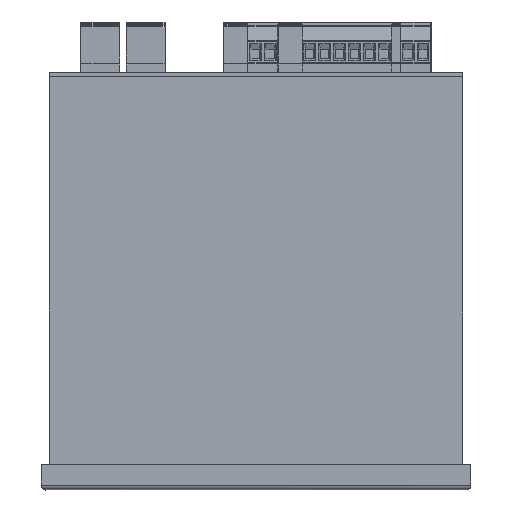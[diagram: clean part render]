
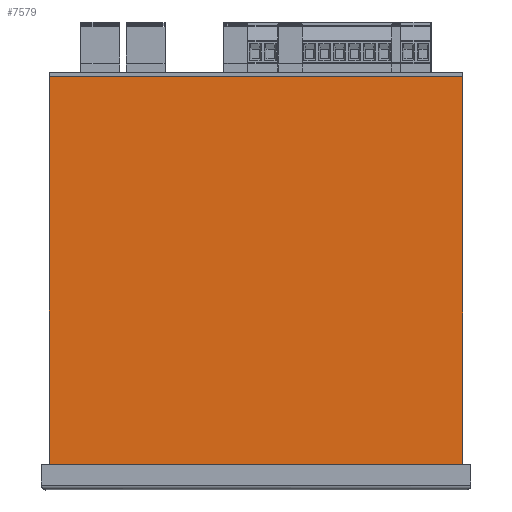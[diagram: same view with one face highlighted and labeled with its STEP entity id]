
A CAD part, top view. The second image highlights one B-rep face of the part: STEP entity #7579.
In plain terms, the highlighted planar face has unit normal (0, 0, 1).
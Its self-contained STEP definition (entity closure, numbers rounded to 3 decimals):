
#448=FACE_OUTER_BOUND($,#810,.T.);
#810=EDGE_LOOP($,(#5073,#5074,#5075,#5076));
#1242=LINE($,#10953,#2117);
#1243=LINE($,#10955,#2118);
#1244=LINE($,#10957,#2119);
#1245=LINE($,#10958,#2120);
#2117=VECTOR($,#8723,138.7);
#2118=VECTOR($,#8724,130.);
#2119=VECTOR($,#8725,138.7);
#2120=VECTOR($,#8726,130.);
#2996=VERTEX_POINT($,#10951);
#2997=VERTEX_POINT($,#10952);
#2998=VERTEX_POINT($,#10954);
#2999=VERTEX_POINT($,#10956);
#3888=EDGE_CURVE($,#2996,#2997,#1242,.T.);
#3889=EDGE_CURVE($,#2998,#2997,#1243,.T.);
#3890=EDGE_CURVE($,#2999,#2998,#1244,.T.);
#3891=EDGE_CURVE($,#2999,#2996,#1245,.T.);
#5073=ORIENTED_EDGE($,*,*,#3888,.T.);
#5074=ORIENTED_EDGE($,*,*,#3889,.F.);
#5075=ORIENTED_EDGE($,*,*,#3890,.F.);
#5076=ORIENTED_EDGE($,*,*,#3891,.T.);
#6907=PLANE($,#8030);
#7579=ADVANCED_FACE($,(#448),#6907,.F.);
#8030=AXIS2_PLACEMENT_3D($,#10950,#8721,#8722);
#8721=DIRECTION('center_axis',(0.,0.,
-1.));
#8722=DIRECTION('ref_axis',(0.,-1.,0.));
#8723=DIRECTION($,(1.,0.,0.));
#8724=DIRECTION($,(0.,-1.,0.));
#8725=DIRECTION($,(1.,0.,0.));
#8726=DIRECTION($,(0.,-1.,0.));
#10950=CARTESIAN_POINT('Origin',(-2.902,135.997,59.15));
#10951=CARTESIAN_POINT('',(-2.9,5.997,59.15));
#10952=CARTESIAN_POINT('',(135.8,5.998,59.15));
#10953=CARTESIAN_POINT($,(-2.9,5.997,59.15));
#10954=CARTESIAN_POINT('',(135.798,135.998,59.15));
#10955=CARTESIAN_POINT($,(135.798,135.998,59.15));
#10956=CARTESIAN_POINT('',(-2.902,135.997,59.15));
#10957=CARTESIAN_POINT($,(-2.902,135.997,59.15));
#10958=CARTESIAN_POINT($,(-2.902,135.997,59.15));
